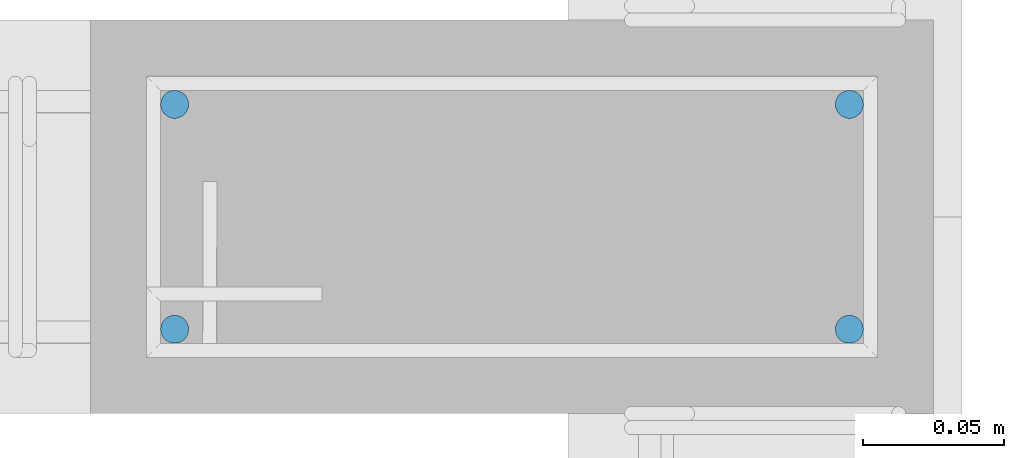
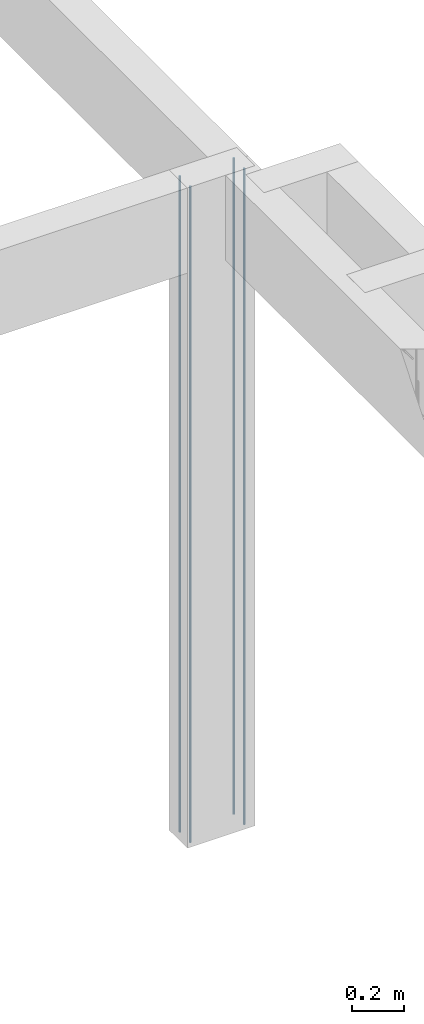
# One storey, part 70 of 236: 4 reinforcing bars.
"""IFC4 building model written with IfcOpenShell, lengths in centimetres."""

import ifcopenshell
import ifcopenshell.guid

model = None  # the IFC model being written
_history = None  # IfcOwnerHistory: only IFC2X3 demands one
_inside = {}  # id of a spatial element -> (the spatial element, [elements in it])
_under = {}  # id of a project, library or spatial element -> (it, [spatial elements below it])
_declared = {}  # id of a project -> (the project, [libraries it declares])
_typed = {}  # id of a type object -> (the type object, [elements of that type])
_made_of = {}  # id of a material, layer set ... -> (it, [elements and type objects made of it])


def new_model(schema):
    """Start an empty IFC model of exactly this schema.

    Asked for "IFC4X3", IfcOpenShell would pick the latest addendum, in which some entities
    have other attributes; the version numbers below select the first issue.
    IFC2X3 requires an IfcOwnerHistory on every rooted entity: one is made here for all.
    """
    global model, _history
    if schema == "IFC4X3":
        model = ifcopenshell.file(schema_version=(4, 3, 0, 0))
    else:
        model = ifcopenshell.file(schema=schema)
    _inside.clear()
    _under.clear()
    _declared.clear()
    _typed.clear()
    _made_of.clear()
    _history = None
    if model.schema == "IFC2X3":
        org = make("IfcOrganization", Name="unknown")
        user = make(
            "IfcPersonAndOrganization",
            ThePerson=make("IfcPerson", FamilyName="unknown"),
            TheOrganization=org,
        )
        app = make(
            "IfcApplication",
            ApplicationDeveloper=org,
            Version="unknown",
            ApplicationFullName="unknown",
            ApplicationIdentifier="unknown",
        )
        _history = make(
            "IfcOwnerHistory",
            OwningUser=user,
            OwningApplication=app,
            ChangeAction="ADDED",
            CreationDate=0,
        )
    return model


def make(cls, **values):
    """One entity of the class cls with the attributes given. An attribute that is None is left unset."""
    return model.create_entity(
        cls, **{name: value for name, value in values.items() if value is not None}
    )


def entity(cls, *values):
    """Any entity or typed value of the class cls, its attributes in the order of the schema. None: left unset."""
    e = model.create_entity(cls)
    for i, value in enumerate(values):
        if value is not None:
            e[i] = value
    return e


def rooted(cls, **values):
    """An entity with a GlobalId (a new one), such as an element, a storey or a relation."""
    return make(cls, GlobalId=ifcopenshell.guid.new(), OwnerHistory=_history, **values)


def si_unit(unit_type, name, prefix=None):
    """IfcSIUnit, for example si_unit("LENGTHUNIT", "METRE", prefix="MILLI")."""
    return make("IfcSIUnit", UnitType=unit_type, Prefix=prefix, Name=name)


def derived_unit(unit_type, elements):
    """IfcDerivedUnit: a product of units, each with its exponent."""
    return make(
        "IfcDerivedUnit",
        Elements=[
            make("IfcDerivedUnitElement", Unit=unit, Exponent=power)
            for unit, power in elements
        ],
        UnitType=unit_type,
    )


def assignment(units):
    """IfcUnitAssignment: the units of a project."""
    return None if units is None else make("IfcUnitAssignment", Units=units)


def point(xyz):
    """IfcCartesianPoint."""
    return None if xyz is None else make("IfcCartesianPoint", Coordinates=xyz)


def direction(xyz):
    """IfcDirection."""
    return None if xyz is None else make("IfcDirection", DirectionRatios=xyz)


def frame(location, z_axis=None, x_axis=None):
    """IfcAxis2Placement3D, a coordinate frame: its origin and axes. An axis left out is left unset."""
    return make(
        "IfcAxis2Placement3D",
        Location=point(location),
        Axis=direction(z_axis),
        RefDirection=direction(x_axis),
    )


def origin_with_axes():
    """The frame at (0, 0, 0) with the z axis (0, 0, 1) and the x axis (1, 0, 0) written out."""
    return frame((0.0, 0.0, 0.0), z_axis=(0.0, 0.0, 1.0), x_axis=(1.0, 0.0, 0.0))


def place(relative_to, where):
    """IfcLocalPlacement: puts the frame where relative to a parent placement (None: the world)."""
    return make(
        "IfcLocalPlacement", PlacementRelTo=relative_to, RelativePlacement=where
    )


def context(
    kind, dimensions, precision=None, world=None, true_north=None, identifier=None
):
    """IfcGeometricRepresentationContext, for example the 3D "Model" context."""
    return make(
        "IfcGeometricRepresentationContext",
        ContextIdentifier=identifier,
        ContextType=kind,
        CoordinateSpaceDimension=dimensions,
        Precision=precision,
        WorldCoordinateSystem=world,
        TrueNorth=true_north,
    )


def project(units=None, contexts=None):
    """IfcProject with its units and contexts."""
    return rooted(
        "IfcProject",
        Name="project",
        RepresentationContexts=contexts,
        UnitsInContext=assignment(units),
    )


def spatial(cls, under=None, at=None, **own):
    """A site, building, storey or space (cls), placed at a placement, below another one or the project."""
    s = rooted(cls, ObjectPlacement=at, **own)
    if under is not None:
        _under.setdefault(under.id(), (under, []))[1].append(s)
    return s


def shape(context_of_items, identifier, shape_type, items):
    """IfcShapeRepresentation: the items that make up one representation, for example the "Body"."""
    return make(
        "IfcShapeRepresentation",
        ContextOfItems=context_of_items,
        RepresentationIdentifier=identifier,
        RepresentationType=shape_type,
        Items=items,
    )


def made_of(thing, what):
    """Note that an element or type object is made of a material, layer set ...; save() writes the relation."""
    if what is not None:
        _made_of.setdefault(what.id(), (what, []))[1].append(thing)
    return thing


def element(
    cls,
    number,
    at=None,
    inside=None,
    cuts=None,
    type_object=None,
    material=None,
    context=None,
    identifier="Body",
    shape_type=None,
    held_by="IfcProductDefinitionShape",
    body=None,
    shapes=None,
    **own,
):
    """One element of the class cls, such as IfcWall. Its Tag is "e" and its number.

    at: its placement. inside: the storey or other place that contains it. cuts: it is an
    opening in that element (IfcRelVoidsElement). A single representation is given by context,
    identifier, shape_type and body (its items); several are given by shapes. held_by: the class
    of the entity that holds the representations. save() writes the other relations.
    """
    e = rooted(cls, Tag="e%d" % number, ObjectPlacement=at, **own)
    if body is not None:
        shapes = [shape(context, identifier, shape_type, body)]
    if shapes is not None:
        e.Representation = make(held_by, Representations=shapes)
    if inside is not None:
        _inside.setdefault(inside.id(), (inside, []))[1].append(e)
    if cuts is not None:
        rooted(
            "IfcRelVoidsElement", RelatingBuildingElement=cuts, RelatedOpeningElement=e
        )
    if type_object is not None:
        _typed.setdefault(type_object.id(), (type_object, []))[1].append(e)
    return made_of(e, material)


def aggregate(whole, parts):
    """IfcRelAggregates: a whole, such as a stair, and the parts it consists of."""
    return rooted("IfcRelAggregates", RelatingObject=whole, RelatedObjects=parts)


def save(model, path):
    """Write the relations noted so far, then the file.

    IfcRelAggregates (storeys below a building ...), IfcRelContainedInSpatialStructure (elements
    in a storey), IfcRelDefinesByType, IfcRelAssociatesMaterial and IfcRelDeclares: one each for
    every whole, place, type object, material and project.
    """
    for whole, parts in _under.values():
        aggregate(whole, parts)
    for where, things in _inside.values():
        rooted(
            "IfcRelContainedInSpatialStructure",
            RelatedElements=things,
            RelatingStructure=where,
        )
    for kind, things in _typed.values():
        rooted("IfcRelDefinesByType", RelatedObjects=things, RelatingType=kind)
    for what, things in _made_of.values():
        rooted("IfcRelAssociatesMaterial", RelatedObjects=things, RelatingMaterial=what)
    for by, libraries in _declared.values():
        rooted("IfcRelDeclares", RelatingContext=by, RelatedDefinitions=libraries)
    model.write(path)


model = new_model("IFC4")

# Units and contexts
model_context = context("Model", 3, precision=1e-05, world=origin_with_axes(), identifier="Body")
ifc_project = project(units=[si_unit("LENGTHUNIT", "METRE", prefix="CENTI"), si_unit("VOLUMEUNIT", "CUBIC_METRE"), si_unit("AREAUNIT", "SQUARE_METRE"), si_unit("POWERUNIT", "WATT"), si_unit("LUMINOUSFLUXUNIT", "LUMEN"), si_unit("ELECTRICCURRENTUNIT", "AMPERE"), si_unit("PRESSUREUNIT", "PASCAL", prefix="KILO"), si_unit("MASSUNIT", "GRAM", prefix="KILO"), si_unit("PLANEANGLEUNIT", "RADIAN"), derived_unit("VOLUMETRICFLOWRATEUNIT", [(si_unit("LENGTHUNIT", "METRE"), 3), (si_unit("TIMEUNIT", "SECOND"), -1)])], contexts=[model_context])

# Site, building, storey
site_placement = place(None, frame((-4000.0, 0.0, 0.0), z_axis=(0.0, 0.0, 1.0), x_axis=(1.0, 0.0, 0.0)))
site = spatial("IfcSite", under=ifc_project, at=site_placement, Name="PADRÃO")
building_placement = place(site_placement, frame((0.0, 0.0, -14.0)))
building = spatial("IfcBuilding", under=site, at=building_placement, Name="CRECHE PRÉ-ESCOLA TIPO 2")
placement_1 = place(building_placement, origin_with_axes())
placement_2 = place(placement_1, frame((0.0, 0.0, 30.0), z_axis=(0.0, 0.0, 1.0), x_axis=(1.0, 0.0, 0.0)))
storey_placement = place(placement_2, frame((0.0, 0.0, 310.0), z_axis=(0.0, 0.0, 1.0), x_axis=(1.0, 0.0, 0.0)))
storey = spatial("IfcBuildingStorey", under=building, at=storey_placement, Name="TERREO", CompositionType="ELEMENT", Elevation=326.0)

# Reinforcing bars
for number, where, z_axis, x_axis, name in (
    (1, (1121.72, 2581.5, -2.0), (0.0, 0.0, 1.0), (1.0, 0.0, 0.0), "P71 - Longitudinal"),
    (2, (1097.72, 2573.5, -2.0), (0.0, 0.0, 1.0), (1.0, 0.0, 0.0), "P71 - Longitudinal"),
    (3, (1097.72, 2581.5, -2.0), (0.0, 0.0, 1.0), (1.0, 0.0, 0.0), "P71 - Longitudinal"),
    (4, (1121.72, 2573.5, -2.0), (0.0, 0.0, 1.0), (1.0, 0.0, 0.0), "P71 - Longitudinal"),
):
    element("IfcReinforcingBar", number, at=place(storey_placement, frame(where, z_axis=z_axis, x_axis=x_axis)), inside=storey, Name=name, BarLength=0.0, CrossSectionArea=7.853981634e-05, NominalDiameter=1.0, PredefinedType="MAIN", context=model_context, shape_type="AdvancedSweptSolid", body=[
        entity("IfcSweptDiskSolid", entity("IfcCompositeCurve", [entity("IfcCompositeCurveSegment", "CONTINUOUS", True, entity("IfcPolyline", [entity("IfcCartesianPoint", [0.0, 0.0, -308.0]), entity("IfcCartesianPoint", [0.0, 0.0, 0.0])]))], False), 0.5),
    ])

save(model, "model.ifc")
